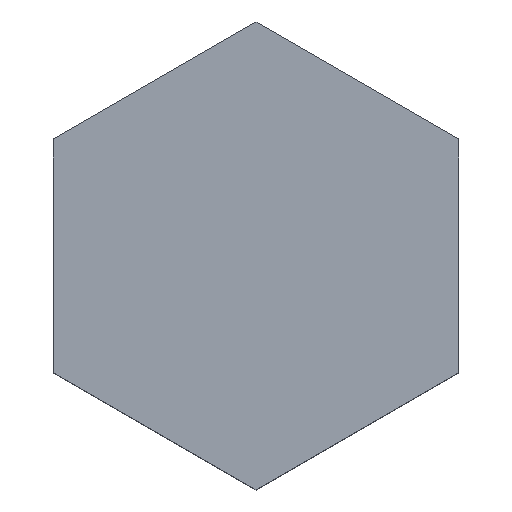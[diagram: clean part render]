
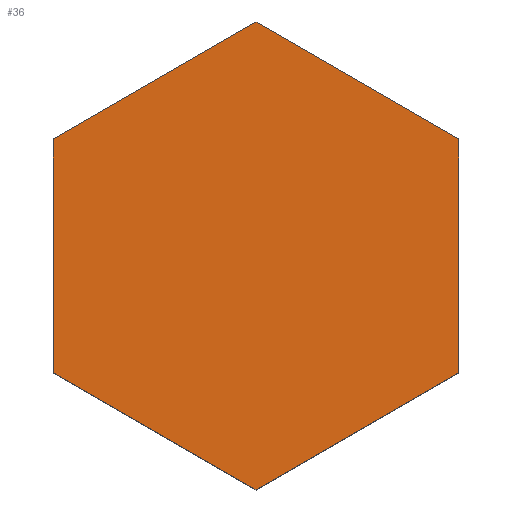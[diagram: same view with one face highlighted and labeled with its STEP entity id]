
A CAD part, top view. The second image highlights one B-rep face of the part: STEP entity #36.
In plain terms, the highlighted planar face has unit normal (0, 0, 1).
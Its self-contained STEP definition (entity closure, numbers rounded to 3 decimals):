
#7 = LINE ( 'NONE', #165, #209 ) ;
#33 = EDGE_CURVE ( 'NONE', #76, #108, #132, .T. ) ;
#36 = ADVANCED_FACE ( 'NONE', ( #238 ), #220, .T. ) ;
#41 = VERTEX_POINT ( 'NONE', #119 ) ;
#47 = CARTESIAN_POINT ( 'NONE',  ( 10.392, 6., 78. ) ) ;
#63 = CARTESIAN_POINT ( 'NONE',  ( 0., 0., 78. ) ) ;
#69 = CARTESIAN_POINT ( 'NONE',  ( 0., -12., 78. ) ) ;
#75 = LINE ( 'NONE', #47, #117 ) ;
#76 = VERTEX_POINT ( 'NONE', #258 ) ;
#78 = EDGE_CURVE ( 'NONE', #257, #41, #7, .T. ) ;
#96 = ORIENTED_EDGE ( 'NONE', *, *, #211, .T. ) ;
#107 = CARTESIAN_POINT ( 'NONE',  ( 0., -12., 78. ) ) ;
#108 = VERTEX_POINT ( 'NONE', #338 ) ;
#117 = VECTOR ( 'NONE', #207, 1000. ) ;
#119 = CARTESIAN_POINT ( 'NONE',  ( 10.392, 6., 78. ) ) ;
#125 = ORIENTED_EDGE ( 'NONE', *, *, #78, .T. ) ;
#132 = LINE ( 'NONE', #284, #161 ) ;
#140 = AXIS2_PLACEMENT_3D ( 'NONE', #63, #251, #283 ) ;
#141 = LINE ( 'NONE', #267, #315 ) ;
#142 = ORIENTED_EDGE ( 'NONE', *, *, #232, .T. ) ;
#144 = CARTESIAN_POINT ( 'NONE',  ( -10.392, -6., 78. ) ) ;
#154 = VECTOR ( 'NONE', #298, 1000. ) ;
#160 = VECTOR ( 'NONE', #347, 1000. ) ;
#161 = VECTOR ( 'NONE', #304, 1000. ) ;
#165 = CARTESIAN_POINT ( 'NONE',  ( 10.392, -6., 78. ) ) ;
#169 = ORIENTED_EDGE ( 'NONE', *, *, #273, .T. ) ;
#190 = VERTEX_POINT ( 'NONE', #144 ) ;
#194 = VERTEX_POINT ( 'NONE', #69 ) ;
#203 = LINE ( 'NONE', #107, #154 ) ;
#207 = DIRECTION ( 'NONE',  ( -0.866, 0.5, 0. ) ) ;
#209 = VECTOR ( 'NONE', #230, 1000. ) ;
#211 = EDGE_CURVE ( 'NONE', #41, #76, #75, .T. ) ;
#220 = PLANE ( 'NONE',  #140 ) ;
#230 = DIRECTION ( 'NONE',  ( 0., 1., 0. ) ) ;
#232 = EDGE_CURVE ( 'NONE', #108, #190, #141, .T. ) ;
#238 = FACE_OUTER_BOUND ( 'NONE', #263, .T. ) ;
#247 = EDGE_CURVE ( 'NONE', #194, #257, #203, .T. ) ;
#251 = DIRECTION ( 'NONE',  ( 0., 0., 1. ) ) ;
#257 = VERTEX_POINT ( 'NONE', #269 ) ;
#258 = CARTESIAN_POINT ( 'NONE',  ( 0., 12., 78. ) ) ;
#263 = EDGE_LOOP ( 'NONE', ( #125, #96, #306, #142, #169, #303 ) ) ;
#264 = CARTESIAN_POINT ( 'NONE',  ( -10.392, -6., 78. ) ) ;
#267 = CARTESIAN_POINT ( 'NONE',  ( -10.392, 6., 78. ) ) ;
#269 = CARTESIAN_POINT ( 'NONE',  ( 10.392, -6., 78. ) ) ;
#273 = EDGE_CURVE ( 'NONE', #190, #194, #308, .T. ) ;
#283 = DIRECTION ( 'NONE',  ( 1., 0., 0. ) ) ;
#284 = CARTESIAN_POINT ( 'NONE',  ( 0., 12., 78. ) ) ;
#298 = DIRECTION ( 'NONE',  ( 0.866, 0.5, 0. ) ) ;
#303 = ORIENTED_EDGE ( 'NONE', *, *, #247, .T. ) ;
#304 = DIRECTION ( 'NONE',  ( -0.866, -0.5, 0. ) ) ;
#306 = ORIENTED_EDGE ( 'NONE', *, *, #33, .T. ) ;
#308 = LINE ( 'NONE', #264, #160 ) ;
#315 = VECTOR ( 'NONE', #319, 1000. ) ;
#319 = DIRECTION ( 'NONE',  ( 0., -1., 0. ) ) ;
#338 = CARTESIAN_POINT ( 'NONE',  ( -10.392, 6., 78. ) ) ;
#347 = DIRECTION ( 'NONE',  ( 0.866, -0.5, 0. ) ) ;
